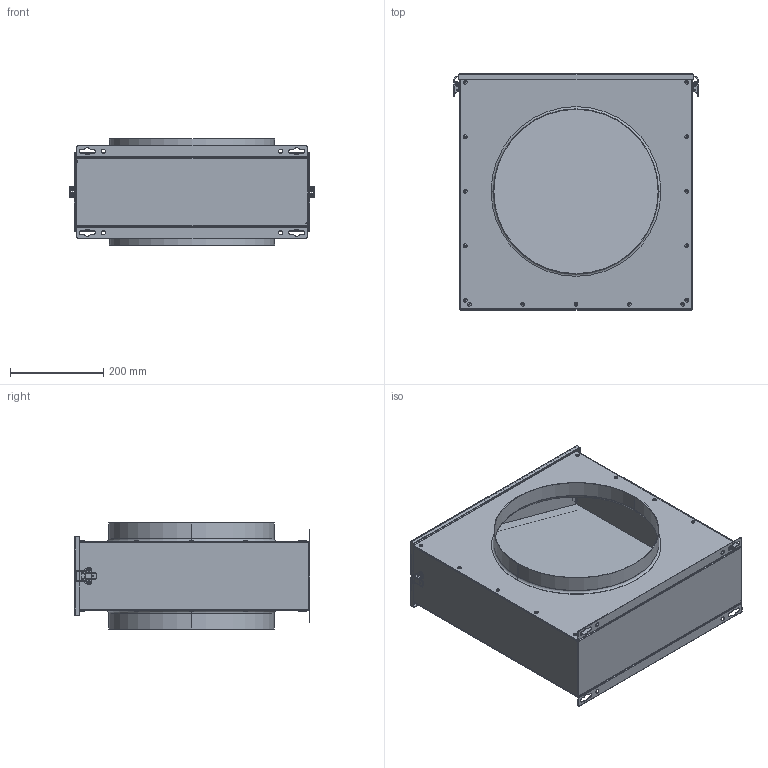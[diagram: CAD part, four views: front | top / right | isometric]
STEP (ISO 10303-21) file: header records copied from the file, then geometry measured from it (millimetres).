
FILE_DESCRIPTION (( 'STEP AP203' ), '1' );
FILE_NAME ('112835-01_FV355_step.step', '2020-08-26T10:56:27', ( '' ), ( '' ), 'SwSTEP 2.0', 'SolidWorks 2017', '' );
FILE_SCHEMA (( 'CONFIG_CONTROL_DESIGN' ));
Length unit declared in the file: millimetre
Products named in the file (1): 112835-01_FV355_step
Bounding box: 527.59 x 507 x 228 mm (x, y, z)
Surface area: 2023158.2 mm2 (no closed solid volume)
Topology: 0 solids, 54 shells, 487 faces, 1581 edges, 1098 vertices
Faces by surface type: cylinder 233, plane 128, torus 78, bspline 48
Entity records: 18787 total; most frequent: CARTESIAN_POINT 4501, DIRECTION 3285, ORIENTED_EDGE 2484, EDGE_CURVE 1581, AXIS2_PLACEMENT_3D 1318, VERTEX_POINT 1098, CIRCLE 878, LINE 649
